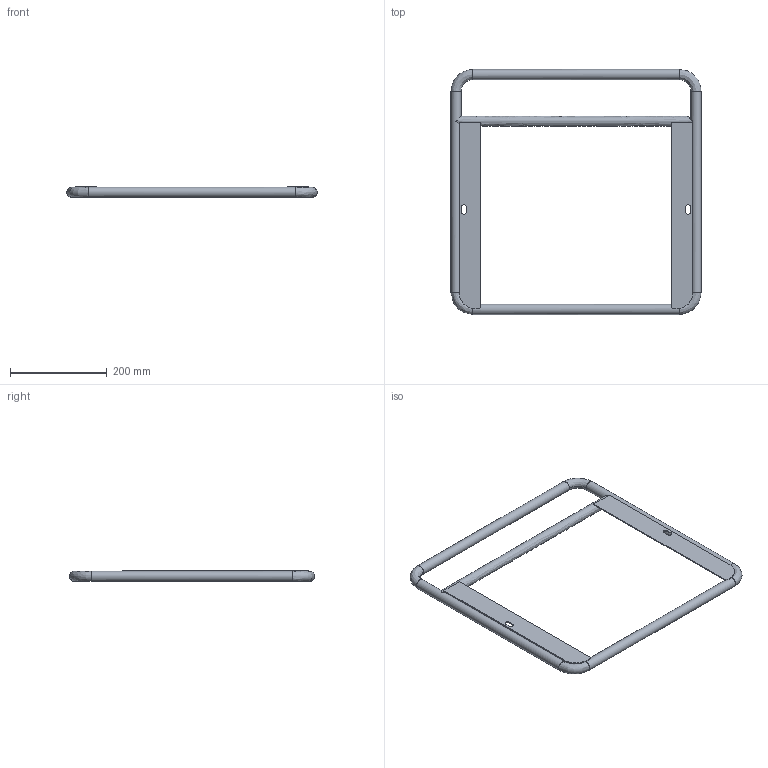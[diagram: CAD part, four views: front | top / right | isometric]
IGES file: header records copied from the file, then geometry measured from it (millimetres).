
Start section: C
Global section: file name: portasciugamani piccolo.igs; native system:  By UGS Corp.; preprocessor: XPlus GENERIC/IGES 3.0; author: Author; organization: Title; date: 20140711.092129; units: millimetre
Bounding box: 518 x 507.5 x 22.5 mm (x, y, z)
Surface area: 229900.7 mm2 (no closed solid volume)
Topology: 0 solids, 0 shells, 31 faces, 154 edges, 154 vertices
Faces by surface type: bspline 31
